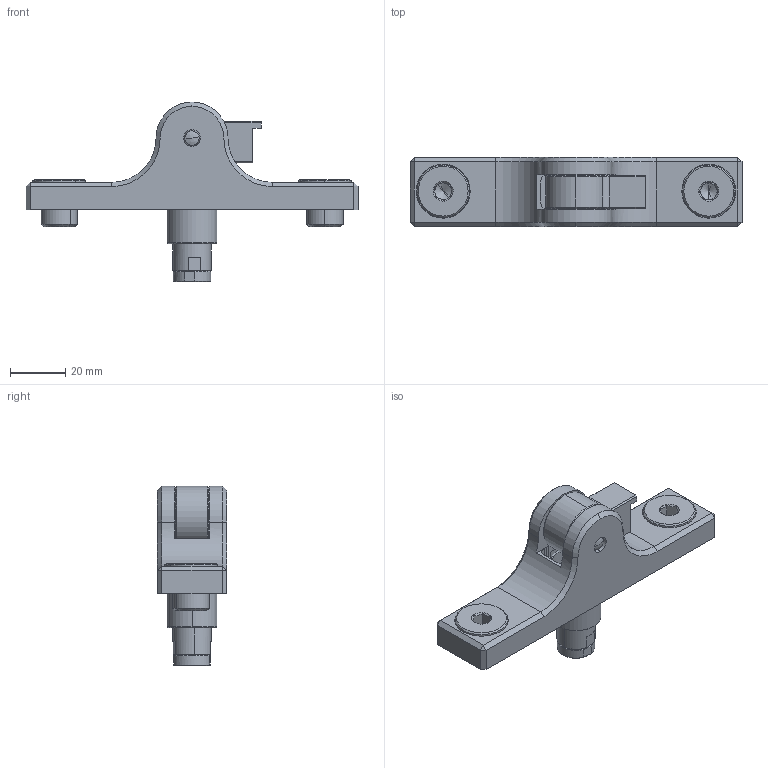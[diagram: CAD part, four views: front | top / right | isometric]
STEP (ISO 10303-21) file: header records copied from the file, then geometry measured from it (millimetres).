
FILE_DESCRIPTION (( 'STEP AP203' ), '1' );
FILE_NAME ('44596.STEP', '2012-10-04T09:23:50', ( '' ), ( '' ), 'SwSTEP 2.0', 'SolidWorks 2011', '' );
FILE_SCHEMA (( 'CONFIG_CONTROL_DESIGN' ));
Length unit declared in the file: millimetre
Products named in the file (1): 44596
Bounding box: 120 x 25 x 65 mm (x, y, z)
Volume: 51493.3 mm3; surface area: 25187 mm2
Topology: 8 solids, 8 shells, 281 faces, 629 edges, 375 vertices
Faces by surface type: plane 104, cylinder 90, cone 69, torus 10, sphere 4, bspline 4
Entity records: 7959 total; most frequent: CARTESIAN_POINT 1510, DIRECTION 1438, ORIENTED_EDGE 1242, EDGE_CURVE 621, AXIS2_PLACEMENT_3D 567, VERTEX_POINT 375, EDGE_LOOP 314, VECTOR 304
